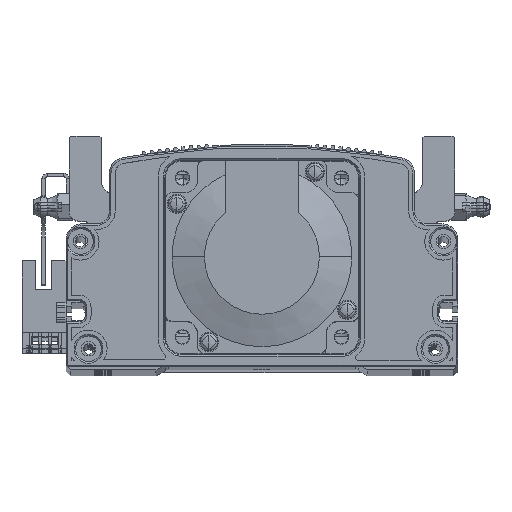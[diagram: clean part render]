
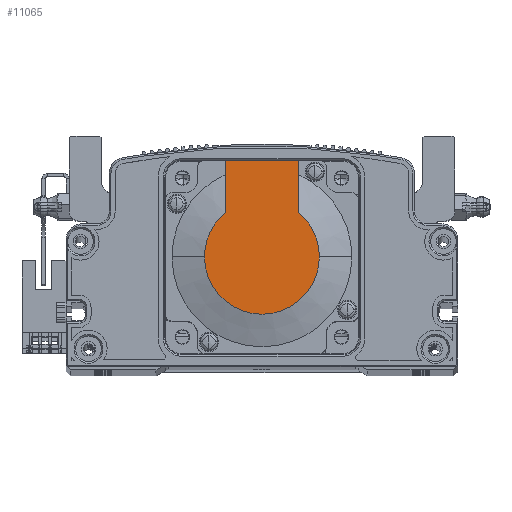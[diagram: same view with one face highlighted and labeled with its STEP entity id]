
A CAD part, top view. The second image highlights one B-rep face of the part: STEP entity #11065.
In plain terms, the highlighted planar face has unit normal (0, 0, 1) as drawn and (-1, 0, 0) by its records, which use the part's own axes.
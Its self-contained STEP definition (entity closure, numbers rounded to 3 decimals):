
#1039 = CARTESIAN_POINT ( 'NONE',  ( -118.5, 0., 17.881 ) ) ;
#1666 = DIRECTION ( 'NONE',  ( 0., 0., 1. ) ) ;
#2655 = CARTESIAN_POINT ( 'NONE',  ( -118.5, 0., 0. ) ) ;
#3969 = VECTOR ( 'NONE', #80005, 1000. ) ;
#11065 = ADVANCED_FACE ( 'NONE', ( #63766 ), #24408, .T. ) ;
#12721 = VECTOR ( 'NONE', #30327, 1000. ) ;
#13571 = ORIENTED_EDGE ( 'NONE', *, *, #58613, .T. ) ;
#15001 = LINE ( 'NONE', #87729, #12721 ) ;
#16112 = DIRECTION ( 'NONE',  ( 0., 0., -1. ) ) ;
#16159 = EDGE_CURVE ( 'NONE', #26321, #92300, #30873, .T. ) ;
#16600 = CARTESIAN_POINT ( 'NONE',  ( -118.5, -8.941, 0. ) ) ;
#17208 = DIRECTION ( 'NONE',  ( -1., 0., 0. ) ) ;
#18670 = VECTOR ( 'NONE', #1666, 1000. ) ;
#20081 = AXIS2_PLACEMENT_3D ( 'NONE', #44166, #65488, #44783 ) ;
#21655 = VERTEX_POINT ( 'NONE', #1039 ) ;
#24408 = PLANE ( 'NONE',  #29990 ) ;
#26321 = VERTEX_POINT ( 'NONE', #77176 ) ;
#27532 = ORIENTED_EDGE ( 'NONE', *, *, #57717, .F. ) ;
#29990 = AXIS2_PLACEMENT_3D ( 'NONE', #16600, #17208, #66576 ) ;
#30327 = DIRECTION ( 'NONE',  ( 0., -1., 0. ) ) ;
#30873 = CIRCLE ( 'NONE', #20081, 17.881 ) ;
#32489 = CARTESIAN_POINT ( 'NONE',  ( -118.5, 0., -17.881 ) ) ;
#37416 = VERTEX_POINT ( 'NONE', #69971 ) ;
#39287 = CIRCLE ( 'NONE', #76489, 17.881 ) ;
#40955 = LINE ( 'NONE', #88107, #18670 ) ;
#41927 = LINE ( 'NONE', #80619, #3969 ) ;
#43659 = EDGE_LOOP ( 'NONE', ( #53891, #61615, #63030, #13571, #48018, #27532 ) ) ;
#44166 = CARTESIAN_POINT ( 'NONE',  ( -118.5, 0., 0. ) ) ;
#44783 = DIRECTION ( 'NONE',  ( 0., 0., -1. ) ) ;
#45329 = VERTEX_POINT ( 'NONE', #66366 ) ;
#46731 = EDGE_CURVE ( 'NONE', #37416, #26321, #41927, .T. ) ;
#48018 = ORIENTED_EDGE ( 'NONE', *, *, #89941, .F. ) ;
#50255 = VERTEX_POINT ( 'NONE', #88394 ) ;
#50969 = CIRCLE ( 'NONE', #76490, 17.881 ) ;
#52636 = DIRECTION ( 'NONE',  ( -1., 0., 0. ) ) ;
#53891 = ORIENTED_EDGE ( 'NONE', *, *, #46731, .T. ) ;
#56829 = DIRECTION ( 'NONE',  ( 0., 0., -1. ) ) ;
#57717 = EDGE_CURVE ( 'NONE', #37416, #45329, #40955, .T. ) ;
#58613 = EDGE_CURVE ( 'NONE', #21655, #50255, #50969, .T. ) ;
#61615 = ORIENTED_EDGE ( 'NONE', *, *, #16159, .T. ) ;
#63030 = ORIENTED_EDGE ( 'NONE', *, *, #84140, .T. ) ;
#63691 = CARTESIAN_POINT ( 'NONE',  ( -118.5, 0., 0. ) ) ;
#63766 = FACE_OUTER_BOUND ( 'NONE', #43659, .T. ) ;
#65488 = DIRECTION ( 'NONE',  ( -1., 0., 0. ) ) ;
#66366 = CARTESIAN_POINT ( 'NONE',  ( -118.5, 30., 11.45 ) ) ;
#66576 = DIRECTION ( 'NONE',  ( 0., 0., 1. ) ) ;
#69971 = CARTESIAN_POINT ( 'NONE',  ( -118.5, 30., -11.45 ) ) ;
#76489 = AXIS2_PLACEMENT_3D ( 'NONE', #2655, #52636, #16112 ) ;
#76490 = AXIS2_PLACEMENT_3D ( 'NONE', #63691, #85163, #56829 ) ;
#77176 = CARTESIAN_POINT ( 'NONE',  ( -118.5, 13.735, -11.45 ) ) ;
#80005 = DIRECTION ( 'NONE',  ( 0., -1., 0. ) ) ;
#80619 = CARTESIAN_POINT ( 'NONE',  ( -118.5, -8.941, -11.45 ) ) ;
#84140 = EDGE_CURVE ( 'NONE', #92300, #21655, #39287, .T. ) ;
#85163 = DIRECTION ( 'NONE',  ( -1., 0., 0. ) ) ;
#87729 = CARTESIAN_POINT ( 'NONE',  ( -118.5, 0., 11.45 ) ) ;
#88107 = CARTESIAN_POINT ( 'NONE',  ( -118.5, 30., 25. ) ) ;
#88394 = CARTESIAN_POINT ( 'NONE',  ( -118.5, 13.735, 11.45 ) ) ;
#89941 = EDGE_CURVE ( 'NONE', #45329, #50255, #15001, .T. ) ;
#92300 = VERTEX_POINT ( 'NONE', #32489 ) ;
